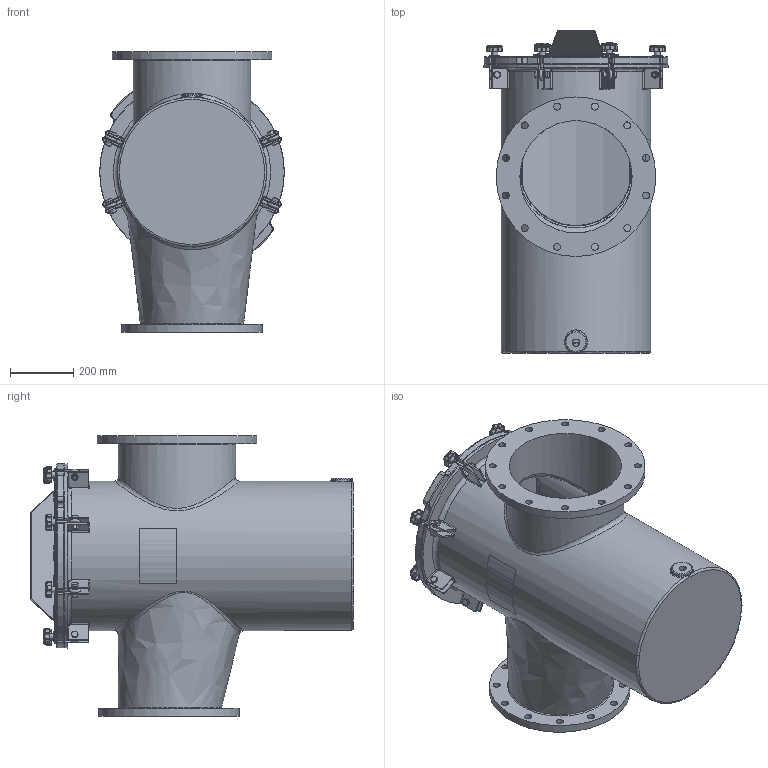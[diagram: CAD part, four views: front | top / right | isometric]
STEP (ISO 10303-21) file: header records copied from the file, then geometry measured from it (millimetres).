
FILE_DESCRIPTION(/* description */ ('350MM X 300MM FIBERGLASS STRAINER BODY'),/* implementation_level */ '2;1');
FILE_NAME(/* name */ 'E:\New folder (7)\Ready for delivery - Do not Disturb -Updated with metric Flange\Workspace\FG Reducing Strainer\Guardian FG Reducing H&L Strainer (Metric)\STRAINER H&L 350MM X 300MM.step',/* time_stamp */ '2016-10-19T04:16:19+06:00',/* author */ ('20076253'),/* organization */ (''),/* preprocessor_version */ 'ST-DEVELOPER v16.1',/* originating_system */ 'Autodesk Inventor 2016',/* authorisation */ '');
FILE_SCHEMA (('AUTOMOTIVE_DESIGN { 1 0 10303 214 3 1 1 }'));
Length unit declared in the file: inch
Products named in the file (24): NBFGBODY14X12MM; 150NBCVR18R2; 150NBGSK18R1; Perforated Basket 18in; Bride (Ring) 18in; Baffle 18in; Handle 18in; Bottom Strainer 18in; NBBSK14T316; BRACESTRCVR18_Welds; BRACE (BASE) FOR 18 BODY; BRACE (PROJ) FOR 18 BODY; Bumper; BRACESTRCVR18; Nut- 1_2  UNC; Bolt-1_2 x 1 1_2  UNC; EyeBolt; Washer; Knob M10; Securing Assembly For FG  with Brace; Securing Assembly For FG without Brace; Label for 18.625 inch (Right); Label for 18.625 inch (Left); STRAINER H&L 350MM X 300MM
Assembly tree (39 placements, depth 3):
  STRAINER H&L 350MM X 300MM
    NBFGBODY14X12MM
    150NBCVR18R2
    150NBGSK18R1
    NBBSK14T316
      Perforated Basket 18in
      Bride (Ring) 18in
      Baffle 18in
      Handle 18in
      Bottom Strainer 18in
    BRACESTRCVR18
      BRACESTRCVR18_Welds
      BRACE (BASE) FOR 18 BODY
      BRACE (PROJ) FOR 18 BODY
      Bumper  x6
    Securing Assembly For FG  with Brace  x2
      Nut- 1_2  UNC
      Bolt-1_2 x 1 1_2  UNC
      EyeBolt
      Washer
      Knob M10
    Securing Assembly For FG without Brace  x6
      Nut- 1_2  UNC
      Bolt-1_2 x 1 1_2  UNC
      EyeBolt
      Washer
      Knob M10
    Label for 18.625 inch (Right)
    Label for 18.625 inch (Left)
Bounding box: 584.2 x 1022.35 x 889 mm (x, y, z)
Volume: 29650232.3 mm3; surface area: 7492973.5 mm2
Topology: 67 solids, 67 shells, 1831 faces, 4190 edges, 2480 vertices
Faces by surface type: cylinder 672, plane 511, cone 184, torus 168, sphere 158, bspline 138
Full cylindrical faces by diameter (mm): 3.175 x11, 6.35 x2, 8.382 x8, 9.525 x16, 10.592 x8, 12.7 x8, 15.875 x16, 19 x16, 19.05 x8, 22.098 x24, 22.809 x1, 31.75 x8, 68.263 x1, 352.425 x2, 355.6 x2, 358.14 x1, 371.475 x1, 444.5 x1, 457.2 x3, 463.55 x1, 473.075 x1, 505.46 x1, 520.7 x1, 527.05 x1
Entity records: 35496 total; most frequent: CARTESIAN_POINT 12027, DIRECTION 4838, ORIENTED_EDGE 4446, EDGE_CURVE 2223, AXIS2_PLACEMENT_3D 1979, VERTEX_POINT 1397, EDGE_LOOP 1204, ADVANCED_FACE 981
